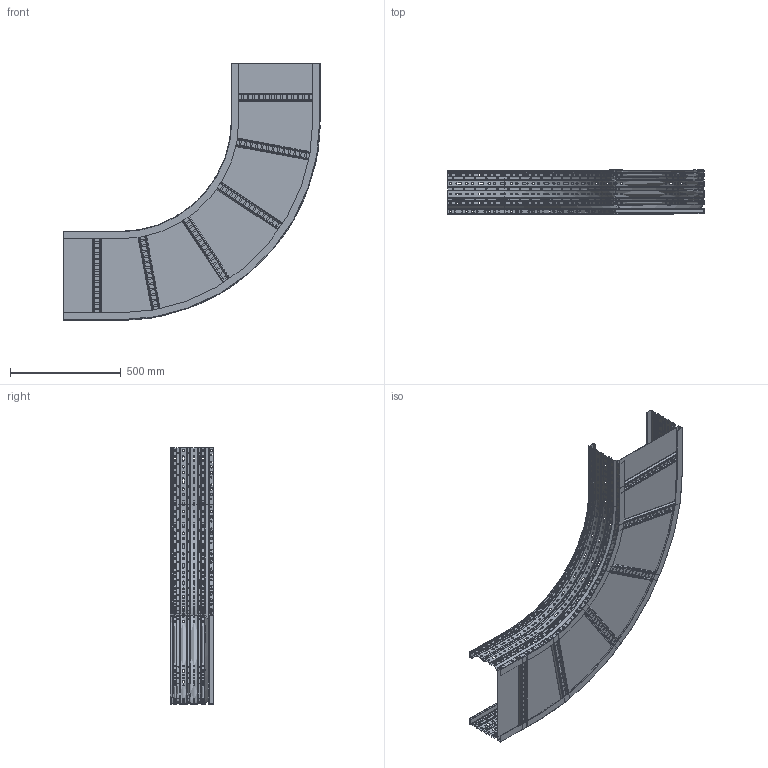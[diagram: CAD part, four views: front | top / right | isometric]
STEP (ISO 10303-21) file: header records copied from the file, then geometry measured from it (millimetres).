
FILE_DESCRIPTION (( 'STEP AP203' ), '1' );
FILE_NAME ('栖闉罻 瀁碭豂蠉 90 200.STEP', '2015-01-23T05:55:33', ( '' ), ( '' ), 'SwSTEP 2.0', 'SolidWorks 2014', '' );
FILE_SCHEMA (( 'CONFIG_CONTROL_DESIGN' ));
Products named in the file (5): 呧翲歑鍙  縺賾緱鴇 200_400; äíèùå 90_cover90 1,2-400; 栖闉罻 瀁碭豂蠉 90 200; 呧翲歑鍙 碴麔謥臇鴇 200; Traversino 39x19x1.5_1_400:(1,5)
Assembly tree (9 placements, depth 2):
  栖闉罻 瀁碭豂蠉 90 200
    呧翲歑鍙 碴麔謥臇鴇 200
    Traversino 39x19x1.5_1_400:(1,5)  x6
    呧翲歑鍙  縺賾緱鴇 200_400
    äíèùå 90_cover90 1,2-400
Bounding box: 1158.7 x 197.9 x 1158.7 mm (x, y, z)
Volume: 2437763.7 mm3; surface area: 3736779.7 mm2
Topology: 9 solids, 9 shells, 5021 faces, 14194 edges, 9237 vertices
Faces by surface type: cylinder 2353, plane 2264, bspline 308, torus 88, cone 8
Entity records: 169098 total; most frequent: CARTESIAN_POINT 70221, ORIENTED_EDGE 21868, DIRECTION 18120, EDGE_CURVE 10934, VERTEX_POINT 7197, AXIS2_PLACEMENT_3D 6386, LINE 5348, VECTOR 5348
